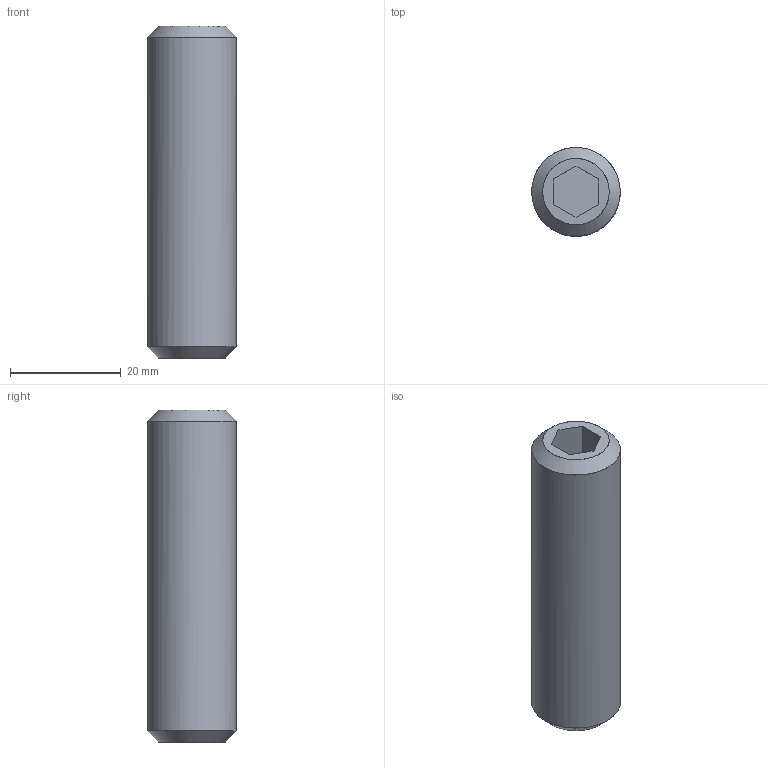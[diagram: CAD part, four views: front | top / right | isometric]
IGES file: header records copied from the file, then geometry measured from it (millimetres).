
Global section: file name: E:\UnigraphicsGraphicData\MISUMI_MOLD-PARTS\NX\3d_ai16_00907_r00.igs; native system: NX V5.0; preprocessor: UGS NX IGES V5.0; author: MISUMI; date: 20101115.182440; units: millimetre
Bounding box: 16 x 15.97 x 60 mm (x, y, z)
Surface area: 3739.9 mm2 (no closed solid volume)
Topology: 0 solids, 0 shells, 19 faces, 101 edges, 96 vertices
Faces by surface type: bspline 19
